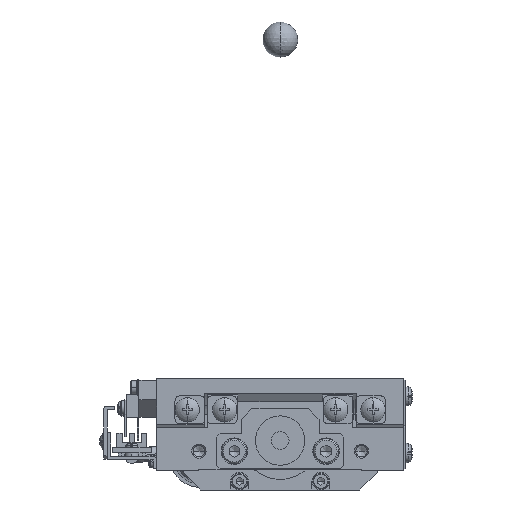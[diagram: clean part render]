
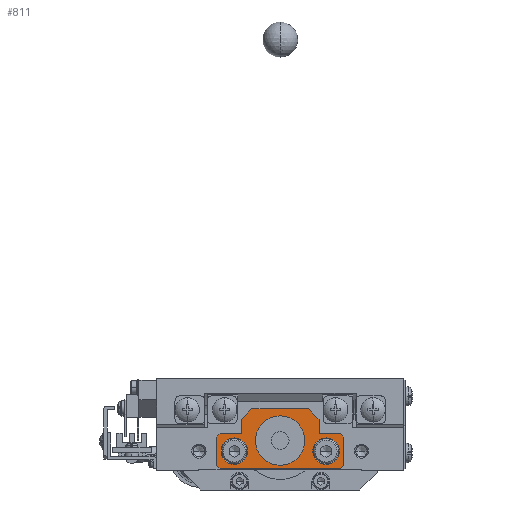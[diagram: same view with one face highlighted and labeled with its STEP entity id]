
A CAD part, left-side view. The second image highlights one B-rep face of the part: STEP entity #811.
In plain terms, the highlighted planar face has unit normal (-1, 0, 0).
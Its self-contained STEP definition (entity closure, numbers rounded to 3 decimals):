
#811=ADVANCED_FACE('',(#8501,#8502,#8503,#8504),#8500,.T.);
#8500=PLANE('',#35581);
#8501=FACE_OUTER_BOUND('',#35582,.T.);
#8502=FACE_BOUND('',#35583,.T.);
#8503=FACE_BOUND('',#35584,.T.);
#8504=FACE_BOUND('',#35585,.T.);
#35578=CARTESIAN_POINT('',(-39.5,21.6,-1.2));
#35579=DIRECTION('',(-1.,0.,0.));
#35580=DIRECTION('',(0.,-1.,0.));
#35581=AXIS2_PLACEMENT_3D('',#35578,#35579,#35580);
#35582=EDGE_LOOP('',(#53354,#53355,#53356,#53357,#53358,#53359,#53360,#53361,#53362,#53363,#53364,#53365,#53366,#53367));
#35583=EDGE_LOOP('',(#53368,#53369));
#35584=EDGE_LOOP('',(#53370,#53371));
#35585=EDGE_LOOP('',(#53372,#53373));
#53354=ORIENTED_EDGE('',*,*,#67249,.T.);
#53355=ORIENTED_EDGE('',*,*,#67250,.T.);
#53356=ORIENTED_EDGE('',*,*,#67251,.T.);
#53357=ORIENTED_EDGE('',*,*,#67252,.T.);
#53358=ORIENTED_EDGE('',*,*,#67253,.T.);
#53359=ORIENTED_EDGE('',*,*,#67254,.T.);
#53360=ORIENTED_EDGE('',*,*,#67255,.T.);
#53361=ORIENTED_EDGE('',*,*,#67256,.T.);
#53362=ORIENTED_EDGE('',*,*,#67257,.T.);
#53363=ORIENTED_EDGE('',*,*,#67258,.T.);
#53364=ORIENTED_EDGE('',*,*,#67259,.T.);
#53365=ORIENTED_EDGE('',*,*,#67260,.T.);
#53366=ORIENTED_EDGE('',*,*,#67261,.T.);
#53367=ORIENTED_EDGE('',*,*,#67262,.T.);
#53368=ORIENTED_EDGE('',*,*,#67263,.T.);
#53369=ORIENTED_EDGE('',*,*,#67264,.T.);
#53370=ORIENTED_EDGE('',*,*,#67265,.T.);
#53371=ORIENTED_EDGE('',*,*,#67266,.T.);
#53372=ORIENTED_EDGE('',*,*,#67267,.T.);
#53373=ORIENTED_EDGE('',*,*,#67268,.T.);
#67249=EDGE_CURVE('',#84764,#84765,#84766,.T.);
#67250=EDGE_CURVE('',#84765,#84772,#84773,.T.);
#67251=EDGE_CURVE('',#84772,#84779,#84780,.T.);
#67252=EDGE_CURVE('',#84779,#84786,#84787,.T.);
#67253=EDGE_CURVE('',#84786,#84793,#84794,.T.);
#67254=EDGE_CURVE('',#84793,#84800,#84801,.T.);
#67255=EDGE_CURVE('',#84800,#84807,#84808,.T.);
#67256=EDGE_CURVE('',#84807,#84814,#84815,.T.);
#67257=EDGE_CURVE('',#84814,#84821,#84822,.T.);
#67258=EDGE_CURVE('',#84821,#84828,#84829,.T.);
#67259=EDGE_CURVE('',#84828,#84835,#84836,.T.);
#67260=EDGE_CURVE('',#84835,#84842,#84843,.T.);
#67261=EDGE_CURVE('',#84842,#84849,#84850,.T.);
#67262=EDGE_CURVE('',#84849,#84764,#84856,.T.);
#67263=EDGE_CURVE('',#84862,#84863,#84864,.T.);
#67264=EDGE_CURVE('',#84863,#84862,#84870,.T.);
#67265=EDGE_CURVE('',#84876,#84877,#84878,.T.);
#67266=EDGE_CURVE('',#84877,#84876,#84884,.T.);
#67267=EDGE_CURVE('',#84890,#84891,#84892,.T.);
#67268=EDGE_CURVE('',#84891,#84890,#84898,.T.);
#84764=VERTEX_POINT('',#129856);
#84765=VERTEX_POINT('',#129857);
#84766=LINE('',#129858,#129859);
#84772=VERTEX_POINT('',#129861);
#84773=LINE('',#129862,#129863);
#84779=VERTEX_POINT('',#129865);
#84780=LINE('',#129866,#129867);
#84786=VERTEX_POINT('',#129869);
#84787=LINE('',#129870,#129871);
#84793=VERTEX_POINT('',#129873);
#84794=LINE('',#129874,#129875);
#84800=VERTEX_POINT('',#129877);
#84801=LINE('',#129878,#129879);
#84807=VERTEX_POINT('',#129881);
#84808=LINE('',#129882,#129883);
#84814=VERTEX_POINT('',#129885);
#84815=LINE('',#129886,#129887);
#84821=VERTEX_POINT('',#129889);
#84822=LINE('',#129890,#129891);
#84828=VERTEX_POINT('',#129893);
#84829=LINE('',#129894,#129895);
#84835=VERTEX_POINT('',#129897);
#84836=LINE('',#129898,#129899);
#84842=VERTEX_POINT('',#129901);
#84843=LINE('',#129902,#129903);
#84849=VERTEX_POINT('',#129905);
#84850=LINE('',#129906,#129907);
#84856=LINE('',#129909,#129910);
#84862=VERTEX_POINT('',#129912);
#84863=VERTEX_POINT('',#129913);
#84864=CIRCLE('',#129917,3.75);
#84870=CIRCLE('',#129921,3.75);
#84876=VERTEX_POINT('',#129922);
#84877=VERTEX_POINT('',#129923);
#84878=CIRCLE('',#129927,7.);
#84884=CIRCLE('',#129931,7.);
#84890=VERTEX_POINT('',#129932);
#84891=VERTEX_POINT('',#129933);
#84892=CIRCLE('',#129937,3.75);
#84898=CIRCLE('',#129941,3.75);
#129856=CARTESIAN_POINT('',(-39.5,-11.,10.5));
#129857=CARTESIAN_POINT('',(-39.5,-11.,14.5));
#129858=CARTESIAN_POINT('',(-39.5,-11.,10.5));
#129859=VECTOR('',#129860,4.);
#129860=DIRECTION('',(0.,0.,1.));
#129861=CARTESIAN_POINT('',(-39.5,-8.,17.5));
#129862=CARTESIAN_POINT('',(-39.5,-11.,14.5));
#129863=VECTOR('',#129864,4.243);
#129864=DIRECTION('',(0.,0.707,0.707));
#129865=CARTESIAN_POINT('',(-39.5,8.,17.5));
#129866=CARTESIAN_POINT('',(-39.5,-8.,17.5));
#129867=VECTOR('',#129868,16.);
#129868=DIRECTION('',(0.,1.,0.));
#129869=CARTESIAN_POINT('',(-39.5,11.,14.5));
#129870=CARTESIAN_POINT('',(-39.5,8.,17.5));
#129871=VECTOR('',#129872,4.243);
#129872=DIRECTION('',(0.,0.707,-0.707));
#129873=CARTESIAN_POINT('',(-39.5,11.,10.5));
#129874=CARTESIAN_POINT('',(-39.5,11.,14.5));
#129875=VECTOR('',#129876,4.);
#129876=DIRECTION('',(0.,0.,-1.));
#129877=CARTESIAN_POINT('',(-39.5,17.,10.5));
#129878=CARTESIAN_POINT('',(-39.5,11.,10.5));
#129879=VECTOR('',#129880,6.);
#129880=DIRECTION('',(0.,1.,0.));
#129881=CARTESIAN_POINT('',(-39.5,18.,9.5));
#129882=CARTESIAN_POINT('',(-39.5,17.,10.5));
#129883=VECTOR('',#129884,1.414);
#129884=DIRECTION('',(0.,0.707,-0.707));
#129885=CARTESIAN_POINT('',(-39.5,18.,1.5));
#129886=CARTESIAN_POINT('',(-39.5,18.,9.5));
#129887=VECTOR('',#129888,8.);
#129888=DIRECTION('',(0.,0.,-1.));
#129889=CARTESIAN_POINT('',(-39.5,17.,0.5));
#129890=CARTESIAN_POINT('',(-39.5,18.,1.5));
#129891=VECTOR('',#129892,1.414);
#129892=DIRECTION('',(0.,-0.707,-0.707));
#129893=CARTESIAN_POINT('',(-39.5,-17.,0.5));
#129894=CARTESIAN_POINT('',(-39.5,17.,0.5));
#129895=VECTOR('',#129896,34.);
#129896=DIRECTION('',(0.,-1.,0.));
#129897=CARTESIAN_POINT('',(-39.5,-18.,1.5));
#129898=CARTESIAN_POINT('',(-39.5,-17.,0.5));
#129899=VECTOR('',#129900,1.414);
#129900=DIRECTION('',(0.,-0.707,0.707));
#129901=CARTESIAN_POINT('',(-39.5,-18.,9.5));
#129902=CARTESIAN_POINT('',(-39.5,-18.,1.5));
#129903=VECTOR('',#129904,8.);
#129904=DIRECTION('',(0.,0.,1.));
#129905=CARTESIAN_POINT('',(-39.5,-17.,10.5));
#129906=CARTESIAN_POINT('',(-39.5,-18.,9.5));
#129907=VECTOR('',#129908,1.414);
#129908=DIRECTION('',(0.,0.707,0.707));
#129909=CARTESIAN_POINT('',(-39.5,-17.,10.5));
#129910=VECTOR('',#129911,6.);
#129911=DIRECTION('',(0.,1.,0.));
#129912=CARTESIAN_POINT('',(-39.5,16.75,5.5));
#129913=CARTESIAN_POINT('',(-39.5,9.25,5.5));
#129914=CARTESIAN_POINT('',(-39.5,13.,5.5));
#129915=DIRECTION('',(1.,0.,0.));
#129916=DIRECTION('',(0.,1.,0.));
#129917=AXIS2_PLACEMENT_3D('',#129914,#129915,#129916);
#129918=CARTESIAN_POINT('',(-39.5,13.,5.5));
#129919=DIRECTION('',(1.,0.,0.));
#129920=DIRECTION('',(0.,1.,0.));
#129921=AXIS2_PLACEMENT_3D('',#129918,#129919,#129920);
#129922=CARTESIAN_POINT('',(-39.5,7.,8.5));
#129923=CARTESIAN_POINT('',(-39.5,-7.,8.5));
#129924=CARTESIAN_POINT('',(-39.5,0.,8.5));
#129925=DIRECTION('',(1.,0.,0.));
#129926=DIRECTION('',(0.,1.,0.));
#129927=AXIS2_PLACEMENT_3D('',#129924,#129925,#129926);
#129928=CARTESIAN_POINT('',(-39.5,0.,8.5));
#129929=DIRECTION('',(1.,0.,0.));
#129930=DIRECTION('',(0.,1.,0.));
#129931=AXIS2_PLACEMENT_3D('',#129928,#129929,#129930);
#129932=CARTESIAN_POINT('',(-39.5,-9.25,5.5));
#129933=CARTESIAN_POINT('',(-39.5,-16.75,5.5));
#129934=CARTESIAN_POINT('',(-39.5,-13.,5.5));
#129935=DIRECTION('',(1.,0.,0.));
#129936=DIRECTION('',(0.,1.,0.));
#129937=AXIS2_PLACEMENT_3D('',#129934,#129935,#129936);
#129938=CARTESIAN_POINT('',(-39.5,-13.,5.5));
#129939=DIRECTION('',(1.,0.,0.));
#129940=DIRECTION('',(0.,1.,0.));
#129941=AXIS2_PLACEMENT_3D('',#129938,#129939,#129940);
